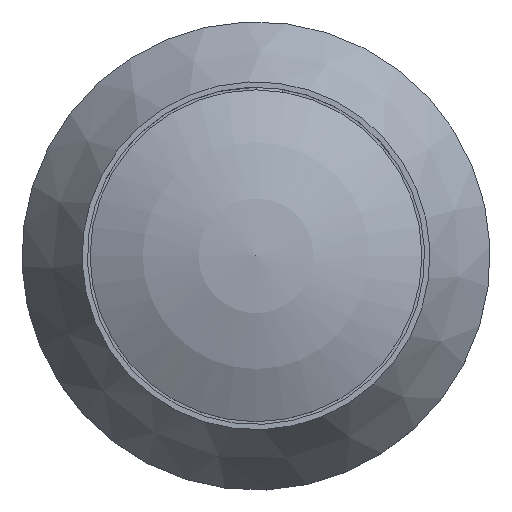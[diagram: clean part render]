
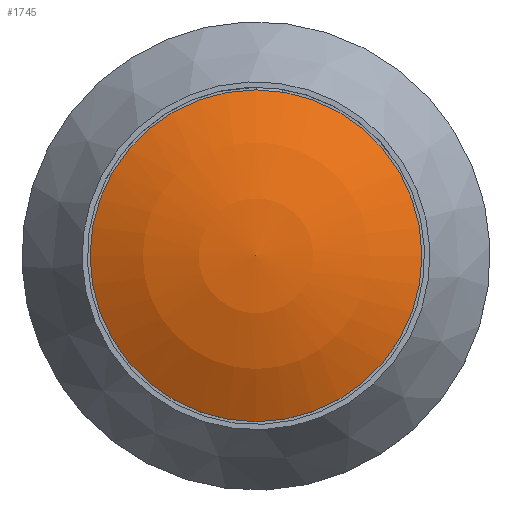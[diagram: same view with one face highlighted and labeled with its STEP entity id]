
A CAD part, top view. The second image highlights one B-rep face of the part: STEP entity #1745.
In plain terms, the highlighted spherical face has radius 12.812 mm.
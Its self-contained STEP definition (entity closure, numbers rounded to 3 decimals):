
#1073=SPHERICAL_SURFACE('',#6931,12.813);
#1524=CIRCLE('',#6930,6.2);
#1745=ADVANCED_FACE('',(#2116),#1073,.T.);
#2116=FACE_OUTER_BOUND('',#2426,.T.);
#2426=EDGE_LOOP('',(#4113));
#4113=ORIENTED_EDGE('',*,*,#6090,.F.);
#5415=VERTEX_POINT('',#18263);
#6090=EDGE_CURVE('',#5415,#5415,#1524,.T.);
#6930=AXIS2_PLACEMENT_3D('',#18262,#7662,#7663);
#6931=AXIS2_PLACEMENT_3D('',#18264,#7664,#7665);
#7662=DIRECTION('',(0.,0.,-1.));
#7663=DIRECTION('',(-1.,0.,0.));
#7664=DIRECTION('',(0.,0.,-1.));
#7665=DIRECTION('',(-1.,0.,0.));
#18262=CARTESIAN_POINT('',(0.,0.,13.8));
#18263=CARTESIAN_POINT('',(-6.2,0.,13.8));
#18264=CARTESIAN_POINT('',(0.,0.,2.588));
